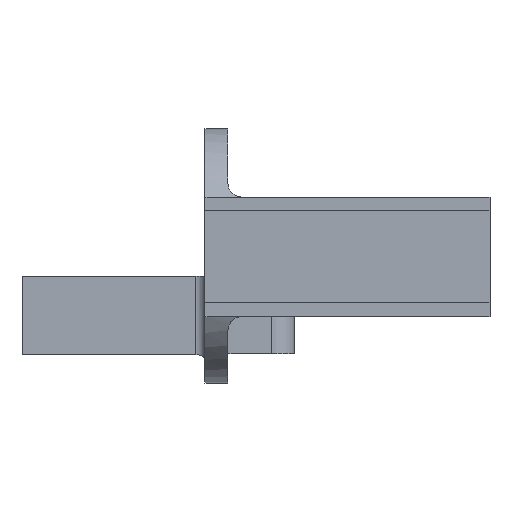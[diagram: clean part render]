
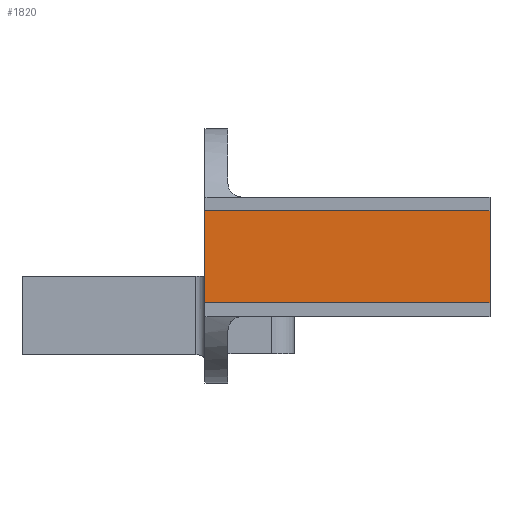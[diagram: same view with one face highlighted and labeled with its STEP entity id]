
A CAD part, left-side view. The second image highlights one B-rep face of the part: STEP entity #1820.
In plain terms, the highlighted planar face has unit normal (-1, 0, 0).
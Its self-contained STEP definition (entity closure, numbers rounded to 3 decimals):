
#4 = ORIENTED_EDGE ( 'NONE', *, *, #213, .F. ) ;
#122 = PLANE ( 'NONE',  #3287 ) ;
#139 = DIRECTION ( 'NONE',  ( 0., 0., -1. ) ) ;
#213 = EDGE_CURVE ( 'NONE', #1697, #2064, #808, .T. ) ;
#298 = VECTOR ( 'NONE', #2381, 1000. ) ;
#375 = DIRECTION ( 'NONE',  ( 0., 0., 1. ) ) ;
#575 = CARTESIAN_POINT ( 'NONE',  ( 6., 35., -10. ) ) ;
#583 = VERTEX_POINT ( 'NONE', #1318 ) ;
#657 = CARTESIAN_POINT ( 'NONE',  ( 6., -27., 10. ) ) ;
#729 = EDGE_LOOP ( 'NONE', ( #2983, #4, #2095, #1399 ) ) ;
#745 = DIRECTION ( 'NONE',  ( 0., 1., 0. ) ) ;
#768 = VERTEX_POINT ( 'NONE', #575 ) ;
#771 = CARTESIAN_POINT ( 'NONE',  ( 6., -27., 10. ) ) ;
#808 = LINE ( 'NONE', #1290, #298 ) ;
#926 = CARTESIAN_POINT ( 'NONE',  ( 6., -27., -10. ) ) ;
#1128 = CARTESIAN_POINT ( 'NONE',  ( 6., 35., -10. ) ) ;
#1146 = LINE ( 'NONE', #1128, #2630 ) ;
#1218 = LINE ( 'NONE', #1800, #2009 ) ;
#1230 = DIRECTION ( 'NONE',  ( 0., 1., 0. ) ) ;
#1286 = LINE ( 'NONE', #771, #2907 ) ;
#1290 = CARTESIAN_POINT ( 'NONE',  ( 6., -27., 10. ) ) ;
#1318 = CARTESIAN_POINT ( 'NONE',  ( 6., 35., 10. ) ) ;
#1399 = ORIENTED_EDGE ( 'NONE', *, *, #2525, .F. ) ;
#1430 = FACE_OUTER_BOUND ( 'NONE', #729, .T. ) ;
#1443 = DIRECTION ( 'NONE',  ( 1., 0., 0. ) ) ;
#1697 = VERTEX_POINT ( 'NONE', #2702 ) ;
#1800 = CARTESIAN_POINT ( 'NONE',  ( 6., -27., -10. ) ) ;
#1820 = ADVANCED_FACE ( 'NONE', ( #1430 ), #122, .F. ) ;
#2009 = VECTOR ( 'NONE', #745, 1000. ) ;
#2064 = VERTEX_POINT ( 'NONE', #926 ) ;
#2095 = ORIENTED_EDGE ( 'NONE', *, *, #2227, .T. ) ;
#2227 = EDGE_CURVE ( 'NONE', #1697, #583, #1286, .T. ) ;
#2381 = DIRECTION ( 'NONE',  ( 0., 0., -1. ) ) ;
#2525 = EDGE_CURVE ( 'NONE', #768, #583, #1146, .T. ) ;
#2630 = VECTOR ( 'NONE', #375, 1000. ) ;
#2702 = CARTESIAN_POINT ( 'NONE',  ( 6., -27., 10. ) ) ;
#2907 = VECTOR ( 'NONE', #1230, 1000. ) ;
#2983 = ORIENTED_EDGE ( 'NONE', *, *, #3032, .F. ) ;
#3032 = EDGE_CURVE ( 'NONE', #2064, #768, #1218, .T. ) ;
#3287 = AXIS2_PLACEMENT_3D ( 'NONE', #657, #1443, #139 ) ;
